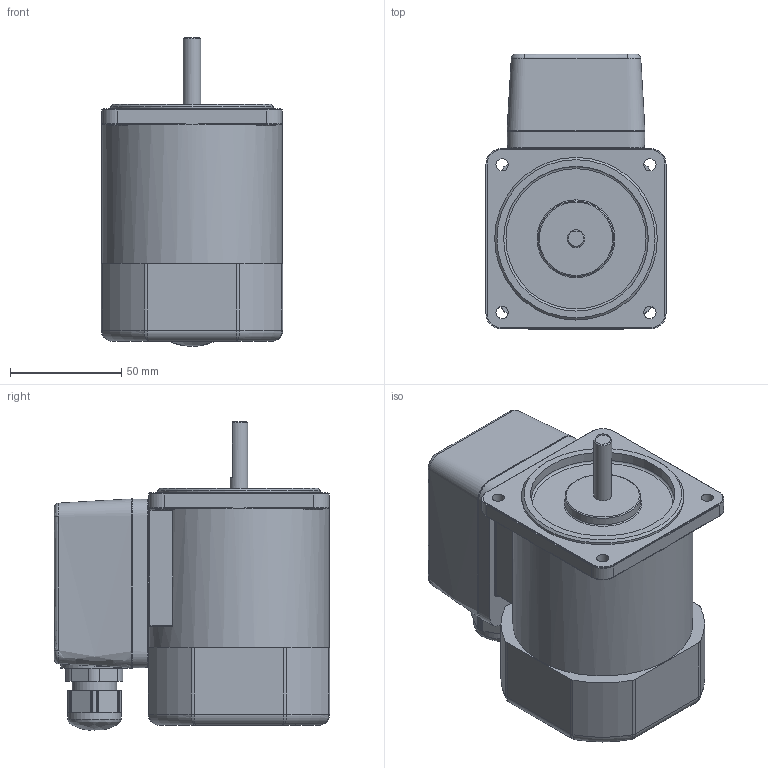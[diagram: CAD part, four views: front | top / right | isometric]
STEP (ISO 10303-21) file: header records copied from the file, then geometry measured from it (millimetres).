
FILE_DESCRIPTION (( 'STEP AP203' ), '1' );
FILE_NAME ('8IDD¤±-40F-T.STEP', '2022-09-20T02:30:47', ( '' ), ( '' ), 'SwSTEP 2.0', 'SolidWorks 2018', '' );
FILE_SCHEMA (( 'CONFIG_CONTROL_DESIGN' ));
Length unit declared in the file: millimetre
Products named in the file (5): TB6276; 8IDD､ｱ-40F; 8IDD､ｱ-40F-T
Assembly tree (2 placements, depth 2):
  8IDD､ｱ-40F
  TB6276
  8IDD､ｱ-40F-T
    8IDD､ｱ-40F
    TB6276
Bounding box: 81.6 x 123.8 x 138.73 mm (x, y, z)
Volume: 780961.6 mm3; surface area: 68698.4 mm2
Topology: 2 solids, 7 shells, 335 faces, 857 edges, 546 vertices
Faces by surface type: plane 145, cylinder 122, bspline 47, torus 17, cone 2, sphere 2
Full cylindrical faces by diameter (mm): 2.911 x1, 3.5 x4, 3.841 x1, 5.5 x4, 8 x1, 20 x1, 24 x1, 34 x1, 65 x1, 73.1 x1, 81 x1
Entity records: 12337 total; most frequent: CARTESIAN_POINT 4119, ORIENTED_EDGE 1600, DIRECTION 1584, EDGE_CURVE 800, AXIS2_PLACEMENT_3D 583, VERTEX_POINT 535, VECTOR 418, LINE 418
